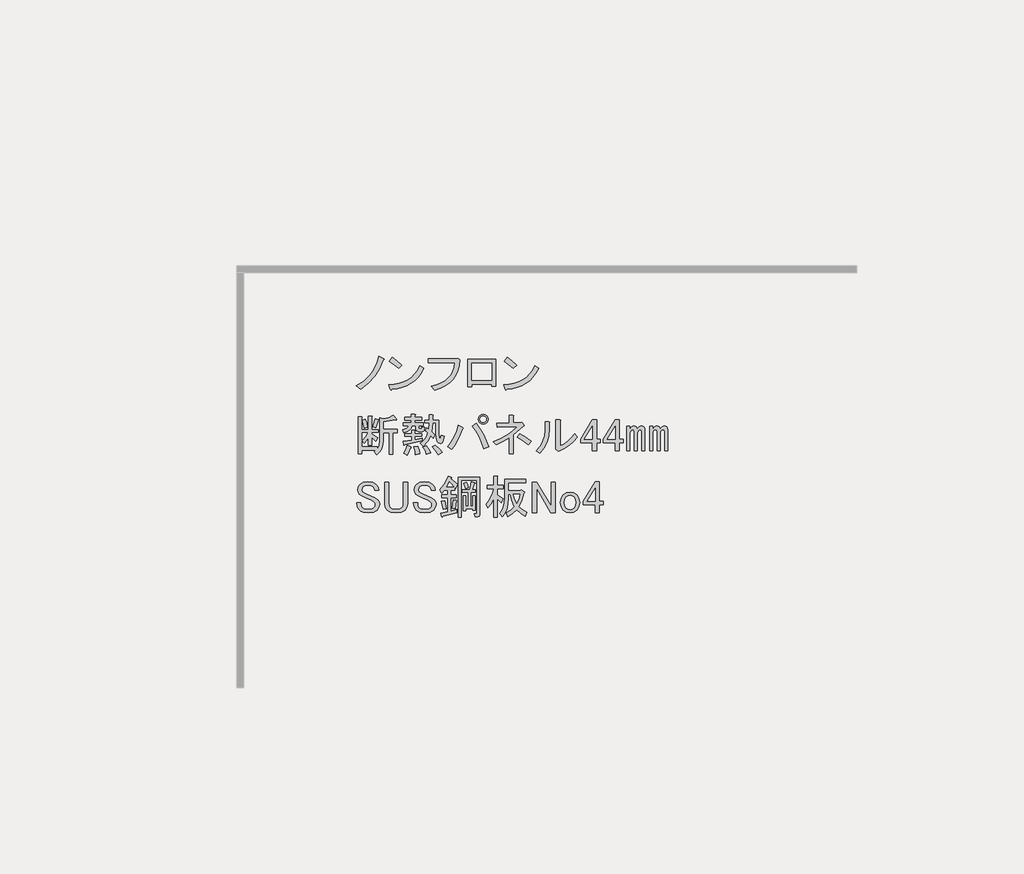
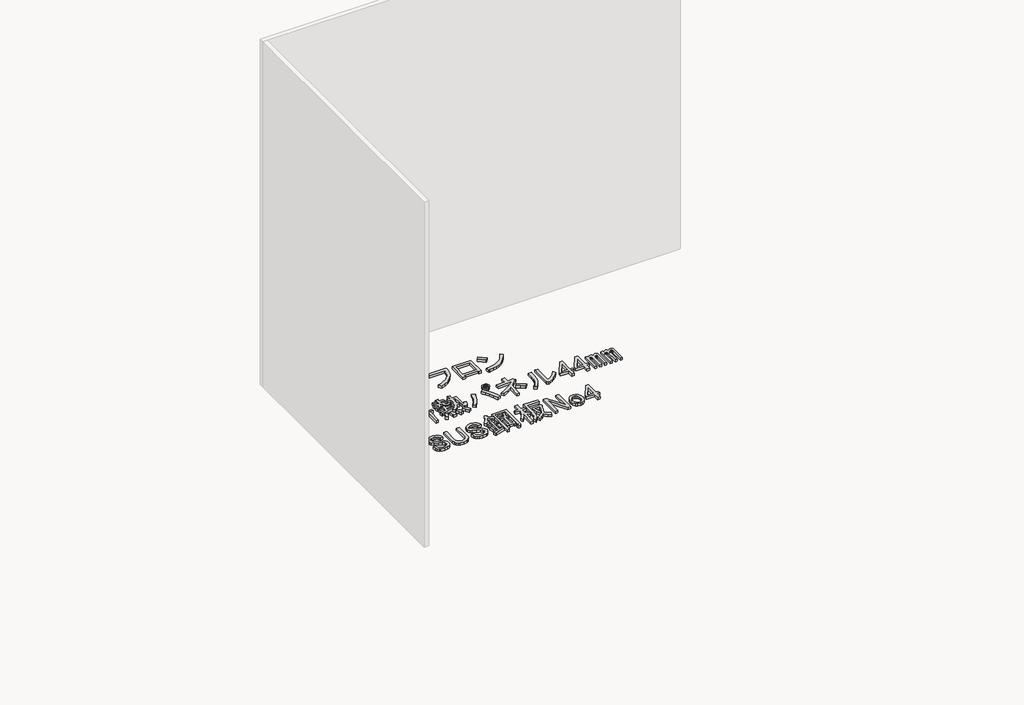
# One storey, part 94 of 117: 1 proxy.
"""IFC4 building model written with IfcOpenShell, lengths in millimetres."""

from ifc_helpers import new_model, si_unit, frame, origin, place, context, project, spatial, polyline, outline, extrude, element, save

model = new_model("IFC4")

# Units and contexts
model_context = context("Model", 3, world=origin())
ifc_project = project(units=[si_unit("LENGTHUNIT", "METRE", prefix="MILLI")], contexts=[model_context])

# Site, building, storey
site = spatial("IfcSite", under=ifc_project)
building = spatial("IfcBuilding", under=site)
storey = spatial("IfcBuildingStorey", under=building, Name="レベル 1", Elevation=500.0)

# Proxy
placement = place(None, origin())
element("IfcBuildingElementProxy", 1, Name="200㎜\u3000MS Pゴシック", ObjectType="200㎜\u3000MS Pゴシック", at=placement, inside=storey, context=model_context, shape_type="SweptSolid", body=[
    extrude(outline(polyline([(16943.6706985, 11392.9503118), (16918.0952502, 11333.1784775), (16889.646156, 11287.2001434), (16847.9782907, 11241.7965385), (16798.8389462, 11204.439142), (16771.2519457, 11226.2788507), (16818.9544673, 11256.7394971), (16858.6107805, 11295.2463519), (16875.9963381, 11319.1694538), (16891.3703435, 11347.2593423), (16904.7327969, 11379.5160173), (16916.0836981, 11415.9394788), (16947.1190736, 11402.1459786), (16950.2800841, 11397.5481452), (16943.6706985, 11392.9503118)])), frame((0.0, 0.0, 500.0), z_axis=(0.0, 0.0, 1.0), x_axis=(1.0, 0.0, 0.0)), (0.0, 0.0, 1.0), 25.0),
    extrude(outline(polyline([(17043.3977052, 11337.7763109), (16984.7753292, 11384.9041033), (17004.3161212, 11409.0427287), (17031.6157571, 11389.2145721), (17065.2374138, 11359.6160196), (17043.3977052, 11337.7763109)])), frame((0.0, 0.0, 500.0), z_axis=(0.0, 0.0, 1.0), x_axis=(1.0, 0.0, 0.0)), (0.0, 0.0, 1.0), 25.0),
    extrude(outline(polyline([(17205.4713328, 11337.7763109), (17188.947869, 11308.034076), (17169.8381239, 11282.0275808), (17148.1420975, 11259.7568252), (17123.8597898, 11241.2218093), (17096.9912008, 11226.422533), (17067.5363306, 11215.3589964), (17035.495179, 11208.0311994), (17000.8677461, 11204.439142), (16995.1204544, 11196.3929336), (16989.3731626, 11202.1402253), (16980.1774958, 11232.0261425), (17016.0082679, 11234.7022252), (17048.7857912, 11241.0062859), (17078.5100658, 11250.9383244), (17105.1810916, 11264.4983409), (17128.7988687, 11281.6863354), (17149.363397, 11302.5023077), (17166.8746766, 11326.946258), (17181.3327074, 11355.0181862), (17205.4713328, 11337.7763109)])), frame((0.0, 0.0, 500.0), z_axis=(0.0, 0.0, 1.0), x_axis=(1.0, 0.0, 0.0)), (0.0, 0.0, 1.0), 25.0),
    extrude(outline(polyline([(17256.2314136, 11222.8304757), (17290.014713, 11232.5110702), (17319.5234641, 11244.8857078), (17344.757667, 11259.9543884), (17365.7173217, 11277.717112), (17382.402428, 11298.1738786), (17394.8129862, 11321.3246882), (17402.9489961, 11347.1695409), (17406.8104577, 11375.7084365), (17234.3917049, 11375.7084365), (17234.3917049, 11400.9965202), (17409.1093744, 11400.9965202), (17425.2017914, 11404.4448953), (17437.8458332, 11392.9503118), (17434.325617, 11356.4550091), (17426.0638851, 11323.4080815), (17413.0606375, 11293.8095289), (17395.3158742, 11267.6593514), (17372.8295952, 11244.957549), (17345.6018005, 11225.7041216), (17313.6324901, 11209.8990692), (17276.921664, 11197.5423919), (17256.2314136, 11222.8304757)])), frame((0.0, 0.0, 500.0), z_axis=(0.0, 0.0, 1.0), x_axis=(1.0, 0.0, 0.0)), (0.0, 0.0, 1.0), 25.0),
    extrude(outline(polyline([(17670.955987, 11223.979934), (17644.5184449, 11223.979934), (17644.5184449, 11236.6239759), (17516.9285679, 11236.6239759), (17516.9285679, 11218.2326423), (17490.4910258, 11218.2326423), (17490.4910258, 11397.5481452), (17670.955987, 11397.5481452), (17670.955987, 11223.979934)]), holes=[polyline([(17516.9285679, 11372.2600614), (17516.9285679, 11261.9120596), (17644.5184449, 11261.9120596), (17644.5184449, 11372.2600614), (17516.9285679, 11372.2600614)])]), frame((0.0, 0.0, 500.0), z_axis=(0.0, 0.0, 1.0), x_axis=(1.0, 0.0, 0.0)), (0.0, 0.0, 1.0), 25.0),
    extrude(outline(polyline([(17947.0099049, 11337.7763109), (17930.4864411, 11308.034076), (17911.376696, 11282.0275808), (17889.6806696, 11259.7568252), (17865.3983619, 11241.2218093), (17838.5297729, 11226.422533), (17809.0749026, 11215.3589964), (17777.0337511, 11208.0311994), (17742.4063182, 11204.439142), (17736.6590264, 11196.3929336), (17730.9117347, 11202.1402253), (17721.7160679, 11232.0261425), (17757.5468399, 11234.7022252), (17790.3243633, 11241.0062859), (17820.0486378, 11250.9383244), (17846.7196637, 11264.4983409), (17870.3374407, 11281.6863354), (17890.9019691, 11302.5023077), (17908.4132486, 11326.946258), (17922.8712795, 11355.0181862), (17947.0099049, 11337.7763109)])), frame((0.0, 0.0, 500.0), z_axis=(0.0, 0.0, 1.0), x_axis=(1.0, 0.0, 0.0)), (0.0, 0.0, 1.0), 25.0),
    extrude(outline(polyline([(17784.9362772, 11337.7763109), (17726.3139013, 11384.9041033), (17745.8546933, 11409.0427287), (17773.1543291, 11389.2145721), (17806.7759859, 11359.6160196), (17784.9362772, 11337.7763109)])), frame((0.0, 0.0, 500.0), z_axis=(0.0, 0.0, 1.0), x_axis=(1.0, 0.0, 0.0)), (0.0, 0.0, 1.0), 25.0),
    extrude(outline(polyline([(16877.0021141, 10960.7654779), (16894.2439894, 11013.6405621), (16914.9342397, 11007.8932704), (16916.6584273, 11004.7322599), (16912.635323, 11002.1459786), (16895.3934478, 10953.8687278), (16877.0021141, 10960.7654779)])), frame((0.0, 0.0, 500.0), z_axis=(0.0, 0.0, 1.0), x_axis=(1.0, 0.0, 0.0)), (0.0, 0.0, 1.0), 25.0),
    extrude(outline(polyline([(17031.0295333, 11009.0427287), (17029.3053458, 11004.4448953), (17021.8338665, 11006.743812), (16944.8201569, 10994.0997701), (16944.8201569, 10944.673061), (17036.7768251, 10944.673061), (17036.7768251, 10922.8333523), (17005.7414495, 10922.8333523), (17005.7414495, 10782.5994334), (16982.7522825, 10782.5994334), (16982.7522825, 10922.8333523), (16944.8201569, 10922.8333523), (16944.8201569, 10873.4066432), (16942.2338756, 10845.6041193), (16934.4750317, 10820.8189236), (16921.5436253, 10799.051056), (16903.4396562, 10780.3005167), (16886.1977809, 10799.8413086), (16896.5429061, 10809.0369755), (16806.8851546, 10809.0369755), (16806.8851546, 10787.1972668), (16783.8959876, 10787.1972668), (16783.8959876, 11026.284604), (16805.7356963, 11026.284604), (16810.6208943, 11023.9856873), (16806.8851546, 11019.3878539), (16806.8851546, 10943.5236026), (16849.4151137, 10943.5236026), (16849.4151137, 11030.8824374), (16867.8064473, 11030.8824374), (16872.6916453, 11028.5835207), (16868.9559057, 11023.9856873), (16868.9559057, 10943.5236026), (16912.635323, 10943.5236026), (16912.635323, 10925.132269), (16868.9559057, 10925.132269), (16868.9559057, 10915.9366022), (16909.186948, 10889.4990601), (16895.3934478, 10867.6593514), (16868.9559057, 10894.0968935), (16868.9559057, 10841.2218093), (16849.4151137, 10841.2218093), (16849.4151137, 10889.4990601), (16836.1963426, 10869.6709035), (16821.8281132, 10853.8658512), (16809.1840713, 10872.2571848), (16831.02378, 10896.3958102), (16848.2656553, 10925.132269), (16806.8851546, 10925.132269), (16806.8851546, 10830.8766841), (16904.5891146, 10830.8766841), (16904.5891146, 10817.0831839), (16917.520521, 10841.2218093), (16921.8309898, 10874.5561015), (16921.8309898, 11019.3878539), (16943.6706985, 11013.6405621), (16979.8786366, 11021.1120414), (17010.339283, 11034.3308125), (17031.0295333, 11009.0427287)])), frame((0.0, 0.0, 500.0), z_axis=(0.0, 0.0, 1.0), x_axis=(1.0, 0.0, 0.0)), (0.0, 0.0, 1.0), 25.0),
    extrude(outline(polyline([(16822.9775716, 10952.7192695), (16810.3335297, 11003.2954369), (16829.8743217, 11010.1921871), (16837.6331656, 10986.0535617), (16842.5183636, 10959.6160196), (16822.9775716, 10952.7192695)])), frame((0.0, 0.0, 500.0), z_axis=(0.0, 0.0, 1.0), x_axis=(1.0, 0.0, 0.0)), (0.0, 0.0, 1.0), 25.0),
    extrude(outline(polyline([(17121.8367431, 10832.0261425), (17125.2851182, 10827.1409445), (17119.5378264, 10823.979934), (17109.7674304, 10798.4044857), (17098.8475761, 10779.1510583), (17075.858409, 10790.6456418), (17088.5024509, 10814.209538), (17098.8475761, 10841.2218093), (17121.8367431, 10832.0261425)])), frame((0.0, 0.0, 500.0), z_axis=(0.0, 0.0, 1.0), x_axis=(1.0, 0.0, 0.0)), (0.0, 0.0, 1.0), 25.0),
    extrude(outline(polyline([(17166.6656188, 10836.6239759), (17176.7233794, 10809.32434), (17181.6085774, 10787.1972668), (17152.8721186, 10781.449975), (17150.2858373, 10803.0023191), (17142.5269934, 10833.1756008), (17166.6656188, 10836.6239759)])), frame((0.0, 0.0, 500.0), z_axis=(0.0, 0.0, 1.0), x_axis=(1.0, 0.0, 0.0)), (0.0, 0.0, 1.0), 25.0),
    extrude(outline(polyline([(17281.611454, 10842.3712677), (17306.3248086, 10821.1062881), (17325.2908714, 10796.3929336), (17298.8533293, 10781.449975), (17279.5999019, 10811.0485276), (17260.9212037, 10830.8766841), (17281.611454, 10842.3712677)])), frame((0.0, 0.0, 500.0), z_axis=(0.0, 0.0, 1.0), x_axis=(1.0, 0.0, 0.0)), (0.0, 0.0, 1.0), 25.0),
    extrude(outline(polyline([(17222.9890781, 10783.7488917), (17214.655505, 10808.4622463), (17201.1493694, 10829.7272258), (17221.8396197, 10837.7734343), (17238.7941304, 10816.2210902), (17250.5760785, 10792.9445585), (17222.9890781, 10783.7488917)])), frame((0.0, 0.0, 500.0), z_axis=(0.0, 0.0, 1.0), x_axis=(1.0, 0.0, 0.0)), (0.0, 0.0, 1.0), 25.0),
    extrude(outline(polyline([(17083.9046175, 10846.9691011), (17081.8930654, 10842.0839031), (17078.1573257, 10843.520726), (17072.410034, 10867.6593514), (17127.5840349, 10875.7055599), (17127.5840349, 10898.6947269), (17083.9046175, 10898.6947269), (17083.9046175, 10917.0860605), (17127.5840349, 10917.0860605), (17127.5840349, 10940.0752276), (17145.9753685, 10940.0752276), (17150.8605665, 10937.7763109), (17147.1248268, 10933.1784775), (17147.1248268, 10917.0860605), (17191.9537026, 10917.0860605), (17191.9537026, 10898.6947269), (17147.1248268, 10898.6947269), (17147.1248268, 10879.1539349), (17197.7009943, 10888.3496017), (17197.7009943, 10872.2571848), (17083.9046175, 10846.9691011)])), frame((0.0, 0.0, 500.0), z_axis=(0.0, 0.0, 1.0), x_axis=(1.0, 0.0, 0.0)), (0.0, 0.0, 1.0), 25.0),
    extrude(outline(polyline([(17154.021577, 10968.8116864), (17128.7334932, 10968.8116864), (17124.1356598, 10951.3542877), (17113.7905346, 10938.0636755), (17097.6981177, 10928.9398498), (17075.858409, 10923.9828107), (17071.2605756, 10943.5236026), (17096.5486594, 10952.1445403), (17104.0201386, 10959.4723373), (17108.0432429, 10968.8116864), (17072.410034, 10968.8116864), (17072.410034, 10987.20302), (17126.4345765, 10987.20302), (17126.4345765, 11004.4448953), (17082.7551591, 11004.4448953), (17082.7551591, 11022.8362289), (17126.4345765, 11022.8362289), (17126.4345765, 11041.2275626), (17148.2742852, 11041.2275626), (17153.1594832, 11038.9286459), (17149.4237436, 11034.3308125), (17149.4237436, 11022.8362289), (17191.9537026, 11022.8362289), (17191.9537026, 11004.4448953), (17149.4237436, 11004.4448953), (17149.4237436, 10987.20302), (17202.2988277, 10987.20302), (17202.2988277, 10968.8116864), (17173.5623689, 10968.8116864), (17173.5623689, 10956.1676445), (17174.9991919, 10950.9950819), (17179.3096607, 10949.2708944), (17189.6547859, 10949.2708944), (17193.3905255, 10952.4319049), (17193.1031609, 10961.9149363), (17212.6439529, 10959.6160196), (17209.770307, 10938.0636755), (17204.4540622, 10932.6755894), (17196.551536, 10930.8795608), (17172.4129106, 10930.8795608), (17158.6194104, 10935.7647588), (17154.021577, 10950.4203528), (17154.021577, 10968.8116864)])), frame((0.0, 0.0, 500.0), z_axis=(0.0, 0.0, 1.0), x_axis=(1.0, 0.0, 0.0)), (0.0, 0.0, 1.0), 25.0),
    extrude(outline(polyline([(17285.0598291, 10986.0535617), (17263.2201204, 10986.0535617), (17258.622287, 10928.5806441), (17278.163079, 10910.1893104), (17267.8179538, 10888.3496017), (17251.7255369, 10904.4420187), (17232.4721095, 10866.7972576), (17202.2988277, 10834.3250592), (17185.0569525, 10855.0153095), (17200.1435933, 10866.9409399), (17213.2186821, 10882.0275808), (17224.2822187, 10900.2752321), (17233.3342033, 10921.683894), (17216.092328, 10936.6268525), (17224.1385364, 10953.8687278), (17237.9320367, 10943.5236026), (17240.2309534, 10986.0535617), (17212.6439529, 10986.0535617), (17212.6439529, 11004.4448953), (17240.2309534, 11004.4448953), (17240.2309534, 11038.9286459), (17262.0706621, 11038.9286459), (17266.95586, 11036.6297292), (17263.2201204, 11032.0318957), (17263.2201204, 11004.4448953), (17304.6006211, 11004.4448953), (17304.6006211, 10907.8903937), (17308.0489961, 10883.7517683), (17311.2818477, 10881.7402162), (17314.0836525, 10884.9012267), (17318.3941213, 10906.7409354), (17337.9349133, 10899.8441853), (17333.408921, 10873.0474374), (17325.578236, 10857.0268616), (17314.4428582, 10851.7824579), (17300.0027877, 10857.3142262), (17293.4652433, 10864.6420232), (17288.7955687, 10876.280289), (17285.0598291, 10912.4882271), (17285.0598291, 10986.0535617)])), frame((0.0, 0.0, 500.0), z_axis=(0.0, 0.0, 1.0), x_axis=(1.0, 0.0, 0.0)), (0.0, 0.0, 1.0), 25.0),
    extrude(outline(polyline([(17543.6879583, 10983.754645), (17570.3410238, 10947.0438188), (17592.8273029, 10909.3272167), (17611.1467953, 10870.6048384), (17625.2995013, 10830.8766841), (17594.2641258, 10820.531559), (17578.8182792, 10863.6362472), (17561.2171982, 10902.143102), (17541.4608827, 10936.0521234), (17519.5493329, 10965.3633113), (17543.6879583, 10983.754645)])), frame((0.0, 0.0, 500.0), z_axis=(0.0, 0.0, 1.0), x_axis=(1.0, 0.0, 0.0)), (0.0, 0.0, 1.0), 25.0),
    extrude(outline(polyline([(17456.3291235, 10957.3171029), (17460.3522278, 10951.8571757), (17454.0302068, 10946.9719777), (17442.1045764, 10911.5542922), (17427.0179356, 10877.717112), (17408.7702842, 10845.460437), (17387.3616224, 10814.7842672), (17360.9240803, 10832.0261425), (17384.1287708, 10863.4925649), (17403.1666748, 10896.9705394), (17418.0377922, 10932.460066), (17428.7421231, 10969.9611447), (17456.3291235, 10957.3171029)])), frame((0.0, 0.0, 500.0), z_axis=(0.0, 0.0, 1.0), x_axis=(1.0, 0.0, 0.0)), (0.0, 0.0, 1.0), 25.0),
    extrude(outline(polyline([(17589.6662924, 10978.0073532), (17577.0222505, 10980.3062699), (17566.6771253, 10987.20302), (17559.7803752, 10997.5481452), (17557.4814585, 11010.1921871), (17559.7803752, 11022.8362289), (17566.6771253, 11033.1813541), (17577.0222505, 11040.0781042), (17589.6662924, 11042.3770209), (17602.3103343, 11040.0781042), (17612.6554594, 11033.1813541), (17619.5522095, 11022.8362289), (17621.8511262, 11010.1921871), (17619.5522095, 10997.5481452), (17612.6554594, 10987.20302), (17602.3103343, 10980.3062699), (17589.6662924, 10978.0073532)]), holes=[polyline([(17589.6662924, 10989.5019367), (17597.9998654, 10990.9387597), (17604.609251, 10995.2492285), (17608.9197198, 11001.858614), (17610.3565427, 11010.1921871), (17608.9197198, 11018.5257601), (17604.609251, 11025.1351456), (17597.9998654, 11029.4456145), (17589.6662924, 11030.8824374), (17581.3327193, 11029.4456145), (17574.7233338, 11025.1351456), (17570.412865, 11018.5257601), (17568.976042, 11010.1921871), (17570.412865, 11001.858614), (17574.7233338, 10995.2492285), (17581.3327193, 10990.9387597), (17589.6662924, 10989.5019367)])]), frame((0.0, 0.0, 500.0), z_axis=(0.0, 0.0, 1.0), x_axis=(1.0, 0.0, 0.0)), (0.0, 0.0, 1.0), 25.0),
    extrude(outline(polyline([(17879.3297971, 10844.6701844), (17842.2597652, 10873.9813723), (17809.2128376, 10895.2463519), (17826.4547129, 10917.0860605), (17865.2489323, 10893.8095289), (17898.8705891, 10867.6593514), (17879.3297971, 10844.6701844)])), frame((0.0, 0.0, 500.0), z_axis=(0.0, 0.0, 1.0), x_axis=(1.0, 0.0, 0.0)), (0.0, 0.0, 1.0), 25.0),
    extrude(outline(polyline([(17833.351463, 10988.3524784), (17840.2482131, 10990.6513951), (17852.892255, 10973.4095198), (17854.0417134, 10967.3748634), (17848.2944216, 10965.3633113), (17785.0742122, 10909.0398521), (17785.0742122, 10788.3467251), (17758.6366701, 10788.3467251), (17758.6366701, 10890.6485184), (17718.4056278, 10866.5098931), (17673.5767521, 10844.6701844), (17654.0359601, 10865.3604347), (17699.5832473, 10884.8293855), (17740.8200657, 10907.6030291), (17777.7464152, 10933.6813655), (17810.362296, 10963.0643946), (17680.4735022, 10957.3171029), (17677.0251271, 10982.6051866), (17758.6366701, 10984.9041033), (17758.6366701, 11036.6297292), (17781.6258372, 11036.6297292), (17787.6604935, 11033.1813541), (17785.0742122, 11027.4340623), (17785.0742122, 10986.0535617), (17833.351463, 10988.3524784)])), frame((0.0, 0.0, 500.0), z_axis=(0.0, 0.0, 1.0), x_axis=(1.0, 0.0, 0.0)), (0.0, 0.0, 1.0), 25.0),
    extrude(outline(polyline([(17932.296838, 10806.7380587), (17957.4412394, 10835.9774056), (17975.4015262, 10868.5214452), (17986.1776982, 10904.3701775), (17989.7697556, 10943.5236026), (17989.7697556, 10995.2492285), (18013.908381, 10995.2492285), (18019.6556727, 10991.8008534), (18016.2072977, 10986.0535617), (18016.2072977, 10944.673061), (18012.3997169, 10898.9102504), (18000.9769745, 10858.17632), (17981.9390705, 10822.4712699), (17955.286005, 10791.7951002), (17932.296838, 10806.7380587)])), frame((0.0, 0.0, 500.0), z_axis=(0.0, 0.0, 1.0), x_axis=(1.0, 0.0, 0.0)), (0.0, 0.0, 1.0), 25.0),
    extrude(outline(polyline([(18086.3242571, 10837.7734343), (18111.1094529, 10849.9864292), (18134.8888725, 10867.0846222), (18157.6625161, 10889.0680132), (18179.4303837, 10915.9366022), (18195.5228006, 10894.0968935), (18172.246269, 10866.2943696), (18146.0960914, 10842.6586322), (18117.0722681, 10823.1896814), (18085.1747988, 10807.8875171), (18075.979132, 10803.2896837), (18057.5877983, 10817.0831839), (18059.886715, 10822.8304757), (18059.886715, 11007.8932704), (18084.0253404, 11007.8932704), (18089.7726322, 11004.4448953), (18086.3242571, 10998.6976035), (18086.3242571, 10837.7734343)])), frame((0.0, 0.0, 500.0), z_axis=(0.0, 0.0, 1.0), x_axis=(1.0, 0.0, 0.0)), (0.0, 0.0, 1.0), 25.0),
    extrude(outline(polyline([(18295.5256772, 11006.743812), (18321.9632193, 11006.743812), (18321.9632193, 10880.3033933), (18346.1018447, 10880.3033933), (18346.1018447, 10858.4636846), (18321.9632193, 10858.4636846), (18321.9632193, 10807.8875171), (18295.5256772, 10807.8875171), (18295.5256772, 10858.4636846), (18218.5119676, 10858.4636846), (18218.5119676, 10881.4528516), (18295.5256772, 11006.743812)]), holes=[polyline([(18295.5256772, 10964.213853), (18243.8000514, 10880.3033933), (18295.5256772, 10880.3033933), (18295.5256772, 10964.213853)])]), frame((0.0, 0.0, 500.0), z_axis=(0.0, 0.0, 1.0), x_axis=(1.0, 0.0, 0.0)), (0.0, 0.0, 1.0), 25.0),
    extrude(outline(polyline([(18442.6563463, 11006.743812), (18469.0938884, 11006.743812), (18469.0938884, 10880.3033933), (18493.2325138, 10880.3033933), (18493.2325138, 10858.4636846), (18469.0938884, 10858.4636846), (18469.0938884, 10807.8875171), (18442.6563463, 10807.8875171), (18442.6563463, 10858.4636846), (18365.6426367, 10858.4636846), (18365.6426367, 10881.4528516), (18442.6563463, 11006.743812)]), holes=[polyline([(18442.6563463, 10964.213853), (18390.9307204, 10880.3033933), (18442.6563463, 10880.3033933), (18442.6563463, 10964.213853)])]), frame((0.0, 0.0, 500.0), z_axis=(0.0, 0.0, 1.0), x_axis=(1.0, 0.0, 0.0)), (0.0, 0.0, 1.0), 25.0),
    extrude(outline(polyline([(18536.9119311, 10806.7380587), (18517.3711392, 10806.7380587), (18517.3711392, 10964.213853), (18536.9119311, 10964.213853), (18536.9119311, 10946.9719777), (18548.9812438, 10962.4896654), (18562.2000149, 10967.662228), (18571.3956817, 10966.2254051), (18578.2924318, 10961.9149363), (18585.1891819, 10948.121436), (18598.1205884, 10962.77703), (18611.626724, 10967.662228), (18619.9602971, 10966.2254051), (18626.5696826, 10961.9149363), (18631.7422452, 10953.2939986), (18633.4664327, 10941.2246859), (18633.4664327, 10806.7380587), (18613.9256407, 10806.7380587), (18613.9256407, 10930.8795608), (18611.3393594, 10940.3625922), (18603.5805156, 10943.5236026), (18593.2353904, 10938.9257692), (18587.200734, 10930.3048316), (18585.1891819, 10920.5344356), (18585.1891819, 10806.7380587), (18565.6483899, 10806.7380587), (18565.6483899, 10930.8795608), (18563.0621086, 10940.3625922), (18555.3032648, 10943.5236026), (18544.9581396, 10938.9257692), (18538.9234833, 10930.3048316), (18536.9119311, 10920.5344356), (18536.9119311, 10806.7380587)])), frame((0.0, 0.0, 500.0), z_axis=(0.0, 0.0, 1.0), x_axis=(1.0, 0.0, 0.0)), (0.0, 0.0, 1.0), 25.0),
    extrude(outline(polyline([(18758.7573931, 10967.662228), (18767.0909661, 10966.2254051), (18773.7003517, 10961.9149363), (18778.8729142, 10953.2939986), (18780.5971018, 10941.2246859), (18780.5971018, 10806.7380587), (18761.0563098, 10806.7380587), (18761.0563098, 10930.8795608), (18758.4700285, 10940.3625922), (18750.7111846, 10943.5236026), (18740.3660594, 10938.9257692), (18734.3314031, 10930.3048316), (18732.319851, 10920.5344356), (18732.319851, 10806.7380587), (18712.779059, 10806.7380587), (18712.779059, 10930.8795608), (18710.1927777, 10940.3625922), (18702.4339338, 10943.5236026), (18692.0888087, 10938.9257692), (18686.0541523, 10930.3048316), (18684.0426002, 10920.5344356), (18684.0426002, 10806.7380587), (18664.5018082, 10806.7380587), (18664.5018082, 10964.213853), (18684.0426002, 10964.213853), (18684.0426002, 10946.9719777), (18696.1119129, 10962.4896654), (18709.3306839, 10967.662228), (18718.5263508, 10966.2254051), (18725.4231009, 10961.9149363), (18732.319851, 10948.121436), (18745.2512574, 10962.77703), (18758.7573931, 10967.662228)])), frame((0.0, 0.0, 500.0), z_axis=(0.0, 0.0, 1.0), x_axis=(1.0, 0.0, 0.0)), (0.0, 0.0, 1.0), 25.0),
    extrude(outline(polyline([(16779.2981542, 10552.7192695), (16783.3212584, 10573.1221552), (16795.3905711, 10590.6513951), (16815.7934569, 10602.7207078), (16844.8172803, 10606.743812), (16876.1400204, 10602.1459786), (16898.8418228, 10588.3524784), (16910.9111355, 10570.8232385), (16914.9342397, 10550.4203528), (16888.4966976, 10550.4203528), (16886.1977809, 10563.0643946), (16879.3010308, 10573.4095198), (16866.0822598, 10581.1683637), (16847.116197, 10583.754645), (16826.7133112, 10581.4557283), (16813.7819048, 10574.5589781), (16807.7472484, 10565.9380405), (16805.7356963, 10556.1676445), (16810.3335297, 10541.2246859), (16831.02378, 10529.7301024), (16890.7956143, 10503.2925603), (16908.0374896, 10491.7979768), (16917.520521, 10478.0044766), (16920.6815315, 10461.9120596), (16916.6584273, 10440.6470801), (16904.5891146, 10422.8304757), (16894.6031951, 10415.2871552), (16881.8873121, 10409.8990692), (16848.2656553, 10405.5886004), (16814.6439985, 10410.761163), (16801.0660217, 10417.2268662), (16789.6432794, 10426.2788507), (16778.4360604, 10444.6701844), (16774.7003208, 10469.9582681), (16801.1378629, 10469.9582681), (16803.4367796, 10452.1416637), (16810.3335297, 10440.072351), (16826.4259466, 10430.5893196), (16849.4151137, 10427.4283091), (16870.3927286, 10430.301955), (16885.0483226, 10438.9228926), (16891.9450727, 10448.1185594), (16894.2439894, 10457.3142262), (16892.5198019, 10466.7972576), (16887.3472393, 10474.5561015), (16868.9559057, 10486.050685), (16839.0699885, 10499.8441853), (16805.7356963, 10514.7871438), (16789.6432794, 10525.132269), (16781.8844355, 10537.2015817), (16779.2981542, 10552.7192695)])), frame((0.0, 0.0, 500.0), z_axis=(0.0, 0.0, 1.0), x_axis=(1.0, 0.0, 0.0)), (0.0, 0.0, 1.0), 25.0),
    extrude(outline(polyline([(16954.7054987, 10604.4448953), (16981.1430408, 10604.4448953), (16981.1430408, 10466.5098931), (16983.7293221, 10451.8542991), (16991.488166, 10440.072351), (17007.0058537, 10430.5893196), (17028.2708332, 10427.4283091), (17049.5358128, 10430.5893196), (17065.0535005, 10440.072351), (17072.8123444, 10451.8542991), (17075.3986257, 10466.5098931), (17075.3986257, 10604.4448953), (17101.8361678, 10604.4448953), (17101.8361678, 10465.3604347), (17097.8130635, 10442.3712677), (17085.7437508, 10423.979934), (17075.2549434, 10415.9337256), (17062.1798546, 10410.1864338), (17028.2708332, 10405.5886004), (16994.3618119, 10410.1864338), (16981.2867231, 10415.9337256), (16970.7979156, 10423.979934), (16958.7286029, 10442.3712677), (16954.7054987, 10465.3604347), (16954.7054987, 10604.4448953)])), frame((0.0, 0.0, 500.0), z_axis=(0.0, 0.0, 1.0), x_axis=(1.0, 0.0, 0.0)), (0.0, 0.0, 1.0), 25.0),
    extrude(outline(polyline([(17144.1822135, 10552.7192695), (17148.2053177, 10573.1221552), (17160.2746304, 10590.6513951), (17180.6775161, 10602.7207078), (17209.7013395, 10606.743812), (17241.0240796, 10602.1459786), (17263.7258821, 10588.3524784), (17275.7951948, 10570.8232385), (17279.818299, 10550.4203528), (17253.3807569, 10550.4203528), (17251.0818402, 10563.0643946), (17244.1850901, 10573.4095198), (17230.966319, 10581.1683637), (17212.0002562, 10583.754645), (17191.5973705, 10581.4557283), (17178.665964, 10574.5589781), (17172.6313077, 10565.9380405), (17170.6197556, 10556.1676445), (17175.217589, 10541.2246859), (17195.9078393, 10529.7301024), (17255.6796736, 10503.2925603), (17272.9215489, 10491.7979768), (17282.4045803, 10478.0044766), (17285.5655908, 10461.9120596), (17281.5424865, 10440.6470801), (17269.4731738, 10422.8304757), (17259.4872544, 10415.2871552), (17246.7713714, 10409.8990692), (17213.1497146, 10405.5886004), (17179.5280578, 10410.761163), (17165.950081, 10417.2268662), (17154.5273386, 10426.2788507), (17143.3201197, 10444.6701844), (17139.5843801, 10469.9582681), (17166.0219222, 10469.9582681), (17168.3208389, 10452.1416637), (17175.217589, 10440.072351), (17191.3100059, 10430.5893196), (17214.2991729, 10427.4283091), (17235.2767879, 10430.301955), (17249.9323819, 10438.9228926), (17256.829132, 10448.1185594), (17259.1280487, 10457.3142262), (17257.4038611, 10466.7972576), (17252.2312986, 10474.5561015), (17233.8399649, 10486.050685), (17203.9540478, 10499.8441853), (17170.6197556, 10514.7871438), (17154.5273386, 10525.132269), (17146.7684948, 10537.2015817), (17144.1822135, 10552.7192695)])), frame((0.0, 0.0, 500.0), z_axis=(0.0, 0.0, 1.0), x_axis=(1.0, 0.0, 0.0)), (0.0, 0.0, 1.0), 25.0),
    extrude(outline(polyline([(17428.7881014, 10634.3308125), (17569.0220204, 10634.3308125), (17569.0220204, 10394.0940169), (17565.2862807, 10382.8867979), (17554.0790618, 10379.1510583), (17537.9866449, 10379.1510583), (17533.3888115, 10400.990767), (17544.883395, 10400.990767), (17548.33177, 10402.1402253), (17549.4812284, 10405.5886004), (17549.4812284, 10615.9394788), (17448.3288934, 10615.9394788), (17448.3288934, 10376.8521416), (17428.7881014, 10376.8521416), (17428.7881014, 10634.3308125)])), frame((0.0, 0.0, 500.0), z_axis=(0.0, 0.0, 1.0), x_axis=(1.0, 0.0, 0.0)), (0.0, 0.0, 1.0), 25.0),
    extrude(outline(polyline([(17417.2935179, 10486.050685), (17419.8797992, 10482.8896746), (17416.1440596, 10480.3033933), (17408.0978511, 10433.1756008), (17389.7065175, 10435.4745175), (17395.4538092, 10489.4990601), (17417.2935179, 10486.050685)])), frame((0.0, 0.0, 500.0), z_axis=(0.0, 0.0, 1.0), x_axis=(1.0, 0.0, 0.0)), (0.0, 0.0, 1.0), 25.0),
    extrude(outline(polyline([(17413.8451429, 10565.3633113), (17372.4646422, 10609.0427287), (17350.6249335, 10569.9611447), (17405.7989344, 10569.9611447), (17405.7989344, 10551.5698111), (17379.3613923, 10551.5698111), (17379.3613923, 10522.8333523), (17417.2935179, 10522.8333523), (17417.2935179, 10504.4420187), (17379.3613923, 10504.4420187), (17379.3613923, 10417.0831839), (17418.4429763, 10427.4283091), (17420.741893, 10407.8875171), (17328.7852248, 10382.5994334), (17326.4863081, 10376.8521416), (17321.8884747, 10380.3005167), (17314.9917246, 10403.2896837), (17359.8206003, 10412.4853505), (17359.8206003, 10504.4420187), (17321.8884747, 10504.4420187), (17321.8884747, 10522.8333523), (17359.8206003, 10522.8333523), (17359.8206003, 10551.5698111), (17337.9808916, 10551.5698111), (17323.037933, 10533.1784775), (17310.3938912, 10553.8687278), (17338.5556208, 10591.5134888), (17363.2689754, 10642.3770209), (17385.1086841, 10636.6297292), (17388.5570591, 10632.8939895), (17382.8097674, 10630.8824374), (17381.660309, 10627.4340623), (17426.4891847, 10589.5019367), (17413.8451429, 10565.3633113)])), frame((0.0, 0.0, 500.0), z_axis=(0.0, 0.0, 1.0), x_axis=(1.0, 0.0, 0.0)), (0.0, 0.0, 1.0), 25.0),
    extrude(outline(polyline([(17340.2798083, 10484.9012267), (17351.7743918, 10433.1756008), (17331.0841415, 10427.4283091), (17319.589558, 10479.1539349), (17340.2798083, 10484.9012267)])), frame((0.0, 0.0, 500.0), z_axis=(0.0, 0.0, 1.0), x_axis=(1.0, 0.0, 0.0)), (0.0, 0.0, 1.0), 25.0),
    extrude(outline(polyline([(17481.6631856, 10602.1459786), (17488.8473003, 10586.9156554), (17494.3072275, 10566.5127697), (17477.0653522, 10560.7654779), (17465.5707687, 10597.5481452), (17481.6631856, 10602.1459786)])), frame((0.0, 0.0, 500.0), z_axis=(0.0, 0.0, 1.0), x_axis=(1.0, 0.0, 0.0)), (0.0, 0.0, 1.0), 25.0),
    extrude(outline(polyline([(17534.5382698, 10600.9965202), (17537.1245511, 10597.5481452), (17531.0898948, 10594.0997701), (17518.4458529, 10556.1676445), (17539.1361032, 10556.1676445), (17539.1361032, 10537.7763109), (17508.1007277, 10537.7763109), (17508.1007277, 10449.2680178), (17523.0436863, 10449.2680178), (17523.0436863, 10517.0860605), (17539.1361032, 10517.0860605), (17539.1361032, 10422.8304757), (17523.0436863, 10422.8304757), (17523.0436863, 10430.8766841), (17477.0653522, 10430.8766841), (17477.0653522, 10418.2326423), (17460.9729353, 10418.2326423), (17460.9729353, 10514.7871438), (17477.0653522, 10514.7871438), (17477.0653522, 10449.2680178), (17492.0083108, 10449.2680178), (17492.0083108, 10537.7763109), (17456.3751019, 10537.7763109), (17456.3751019, 10556.1676445), (17502.353436, 10556.1676445), (17512.6985611, 10605.5943537), (17534.5382698, 10600.9965202)])), frame((0.0, 0.0, 500.0), z_axis=(0.0, 0.0, 1.0), x_axis=(1.0, 0.0, 0.0)), (0.0, 0.0, 1.0), 25.0),
    extrude(outline(polyline([(17740.2913148, 10405.5886004), (17769.0277736, 10422.8304757), (17790.8674823, 10444.6701844), (17773.0508779, 10486.6254142), (17763.2804819, 10527.4311857), (17750.63644, 10527.4311857), (17750.63644, 10503.2925603), (17748.193841, 10461.5528539), (17740.866044, 10427.1409445), (17728.653049, 10400.0568321), (17711.554856, 10380.3005167), (17697.7613558, 10403.2896837), (17710.8364446, 10420.6752413), (17720.1757937, 10442.9459968), (17725.7794031, 10470.1019504), (17727.647273, 10502.143102), (17727.647273, 10622.8362289), (17864.4328169, 10622.8362289), (17864.4328169, 10600.9965202), (17750.63644, 10600.9965202), (17750.63644, 10549.2708944), (17829.9490663, 10549.2708944), (17835.6963581, 10555.0181862), (17855.23715, 10541.2246859), (17856.673973, 10537.4889463), (17851.788775, 10533.1784775), (17839.4320977, 10486.6254142), (17820.7533995, 10445.8196427), (17839.7194623, 10427.4283091), (17871.329567, 10409.0369755), (17862.1339002, 10384.8983501), (17834.2595351, 10400.990767), (17805.8104409, 10426.2788507), (17781.3844509, 10401.8528608), (17749.4869817, 10381.449975), (17740.2913148, 10405.5886004)]), holes=[polyline([(17785.1201906, 10527.4311857), (17793.166399, 10494.3842581), (17805.8104409, 10466.5098931), (17818.4544828, 10492.6600706), (17826.5006912, 10527.4311857), (17785.1201906, 10527.4311857)])]), frame((0.0, 0.0, 500.0), z_axis=(0.0, 0.0, 1.0), x_axis=(1.0, 0.0, 0.0)), (0.0, 0.0, 1.0), 25.0),
    extrude(outline(polyline([(17657.5303135, 10376.8521416), (17657.5303135, 10496.3958102), (17639.713709, 10462.1994242), (17620.7476462, 10440.072351), (17609.2530627, 10460.7626013), (17626.494938, 10483.4644037), (17640.2884382, 10507.8903937), (17650.6335634, 10534.0405712), (17657.5303135, 10561.9149363), (17616.1498128, 10561.9149363), (17616.1498128, 10583.754645), (17657.5303135, 10583.754645), (17657.5303135, 10643.5264793), (17679.3700222, 10643.5264793), (17684.2552202, 10641.2275626), (17680.5194805, 10636.6297292), (17680.5194805, 10583.754645), (17718.4516061, 10583.754645), (17718.4516061, 10561.9149363), (17680.5194805, 10561.9149363), (17680.5194805, 10521.683894), (17718.4516061, 10495.2463519), (17708.106481, 10472.2571848), (17680.5194805, 10495.2463519), (17680.5194805, 10376.8521416), (17657.5303135, 10376.8521416)])), frame((0.0, 0.0, 500.0), z_axis=(0.0, 0.0, 1.0), x_axis=(1.0, 0.0, 0.0)), (0.0, 0.0, 1.0), 25.0),
    extrude(outline(polyline([(17908.1122342, 10604.4448953), (17936.848693, 10604.4448953), (18028.8053612, 10449.2680178), (18028.8053612, 10604.4448953), (18055.2429033, 10604.4448953), (18055.2429033, 10407.8875171), (18026.5064445, 10407.8875171), (17934.5497763, 10563.0643946), (17934.5497763, 10407.8875171), (17908.1122342, 10407.8875171), (17908.1122342, 10604.4448953)])), frame((0.0, 0.0, 500.0), z_axis=(0.0, 0.0, 1.0), x_axis=(1.0, 0.0, 0.0)), (0.0, 0.0, 1.0), 25.0),
    extrude(outline(polyline([(18088.3932822, 10472.2571848), (18093.2784802, 10499.5568207), (18107.9340742, 10521.683894), (18127.1875015, 10534.6153004), (18150.4640332, 10538.9257692), (18173.7405648, 10534.6153004), (18192.9939922, 10521.683894), (18207.6495862, 10499.5568207), (18212.5347842, 10472.2571848), (18207.6495862, 10444.957549), (18192.9939922, 10422.8304757), (18173.7405648, 10409.8990692), (18150.4640332, 10405.5886004), (18127.1875015, 10409.8990692), (18107.9340742, 10422.8304757), (18093.2784802, 10444.957549), (18088.3932822, 10472.2571848)]), holes=[polyline([(18150.4640332, 10518.2355189), (18137.8199913, 10515.9366022), (18127.4748661, 10509.0398521), (18117.129741, 10492.9474352), (18113.6813659, 10472.2571848), (18116.8423764, 10451.8542991), (18126.3254078, 10436.6239759), (18137.5326267, 10428.865132), (18150.4640332, 10426.2788507), (18163.3954396, 10428.865132), (18174.6026586, 10436.6239759), (18184.08569, 10451.8542991), (18187.2467004, 10472.2571848), (18183.7983254, 10492.9474352), (18173.4532002, 10509.0398521), (18163.1080751, 10515.9366022), (18150.4640332, 10518.2355189)])]), frame((0.0, 0.0, 500.0), z_axis=(0.0, 0.0, 1.0), x_axis=(1.0, 0.0, 0.0)), (0.0, 0.0, 1.0), 25.0),
    extrude(outline(polyline([(18313.1813575, 10606.743812), (18339.6188996, 10606.743812), (18339.6188996, 10480.3033933), (18363.757525, 10480.3033933), (18363.757525, 10458.4636846), (18339.6188996, 10458.4636846), (18339.6188996, 10407.8875171), (18313.1813575, 10407.8875171), (18313.1813575, 10458.4636846), (18236.1676479, 10458.4636846), (18236.1676479, 10481.4528516), (18313.1813575, 10606.743812)]), holes=[polyline([(18313.1813575, 10564.213853), (18261.4557317, 10480.3033933), (18313.1813575, 10480.3033933), (18313.1813575, 10564.213853)])]), frame((0.0, 0.0, 500.0), z_axis=(0.0, 0.0, 1.0), x_axis=(1.0, 0.0, 0.0)), (0.0, 0.0, 1.0), 25.0),
])

save(model, "model.ifc")
